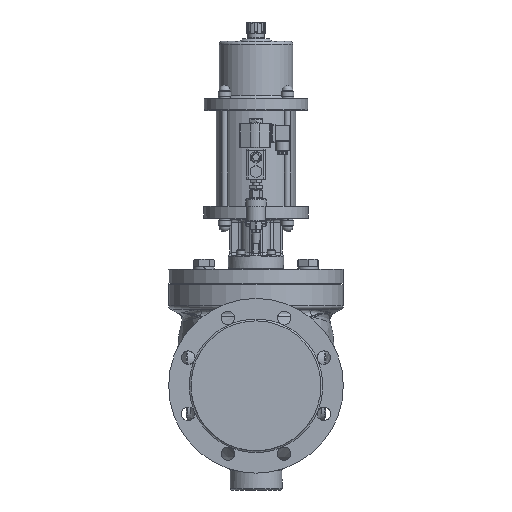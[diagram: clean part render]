
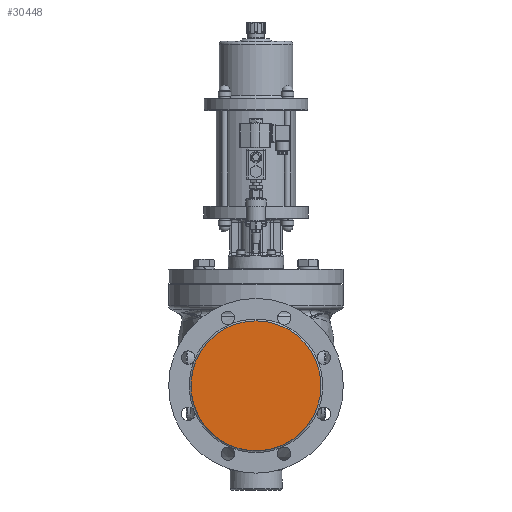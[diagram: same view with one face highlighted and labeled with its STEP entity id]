
A CAD part, left-side view. The second image highlights one B-rep face of the part: STEP entity #30448.
In plain terms, the highlighted planar face has unit normal (-1, 0, 0).
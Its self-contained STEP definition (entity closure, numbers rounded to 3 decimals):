
#30432=CARTESIAN_POINT('',(-240.0,0.,0.));
#30433=DIRECTION('',(-1.0,0.0,0.0));
#30434=DIRECTION('',(0.0,0.0,1.0));
#30435=AXIS2_PLACEMENT_3D('',#30432,#30433,#30434);
#30436=PLANE('',#30435);
#30437=CARTESIAN_POINT('',(-240.,0.,106.));
#30438=VERTEX_POINT('',#30437);
#30439=CARTESIAN_POINT('',(-240.0,0.,0.));
#30440=DIRECTION('',(1.0,0.0,0.0));
#30441=DIRECTION('',(0.0,0.0,1.0));
#30442=AXIS2_PLACEMENT_3D('',#30439,#30440,#30441);
#30443=CIRCLE('',#30442,106.);
#30444=EDGE_CURVE('',#30438,#30438,#30443,.T.);
#30445=ORIENTED_EDGE('',*,*,#30444,.F.);
#30446=EDGE_LOOP('',(#30445));
#30447=FACE_OUTER_BOUND('',#30446,.T.);
#30448=ADVANCED_FACE('',(#30447),#30436,.T.);
